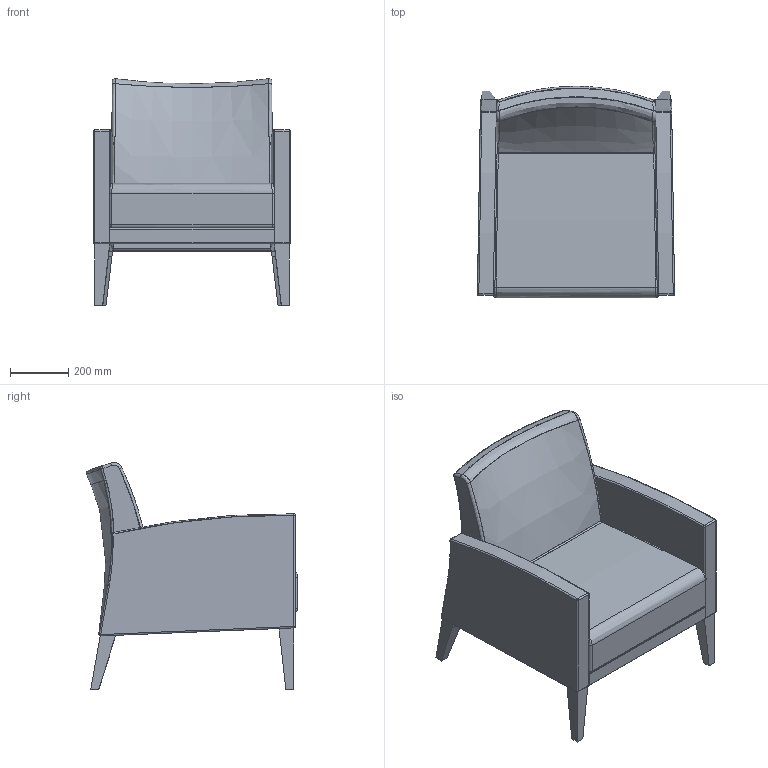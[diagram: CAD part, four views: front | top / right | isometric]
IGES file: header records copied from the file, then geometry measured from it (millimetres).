
Start section: SolidWorks IGES file using analytic representation for surfaces
Global section: file name: C:\Users\Adao.JMS\Documents\Trab Adao\Desenho técnico PRODUÇÃO\J M S\CASSIS\POLTRONAS\M282, M283D, M285, M286D\Poltrona 3D\Poltrona Cassis M-282 (3D).IGS; native system: SolidWorks 2014; preprocessor: SolidWorks 2014; author: adao; date: 140901.152216; units: millimetre
Bounding box: 680.05 x 728.3 x 781.6 mm (x, y, z)
Surface area: 3071526.4 mm2 (no closed solid volume)
Topology: 0 solids, 0 shells, 187 faces, 1586 edges, 1570 vertices
Faces by surface type: bspline 101, revolution 86
